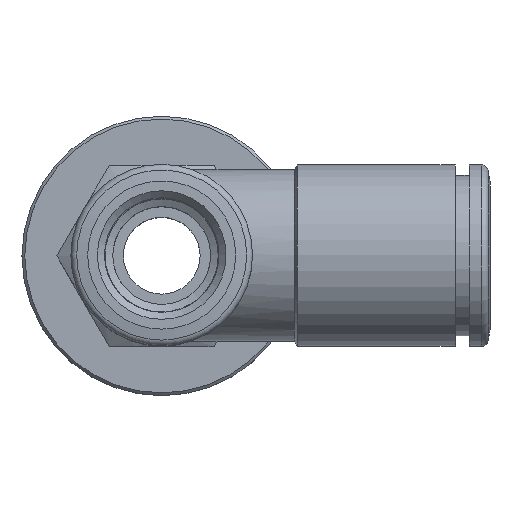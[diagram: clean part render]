
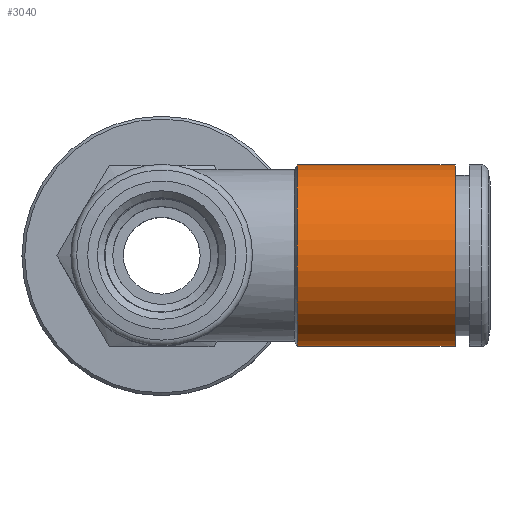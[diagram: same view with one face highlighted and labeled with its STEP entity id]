
A CAD part, top view. The second image highlights one B-rep face of the part: STEP entity #3040.
In plain terms, the highlighted cylindrical face has radius 6.5 mm (diameter 13 mm), a full revolution.
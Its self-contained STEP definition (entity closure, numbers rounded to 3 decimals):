
#3040=ADVANCED_FACE('', (#3050,#3060), #3070, .T.);
#10430=AXIS2_PLACEMENT_3D('Ax2Pl3d', #10440, #10450, #10460);
#10470=AXIS2_PLACEMENT_3D('Ax2Pl3d', #10480, #10490, #10500);
#10510=AXIS2_PLACEMENT_3D('Ax2Pl3d', #10520, #10530, #10540);
#10440=CARTESIAN_POINT('HicPkt', (30.152,12.801,
29.44));
#10480=CARTESIAN_POINT('HicPkt', (30.152,12.801,
29.44));
#15440=CARTESIAN_POINT('', (30.152,6.301,29.44));
#10520=CARTESIAN_POINT('HicPkt', (41.45,12.801,
29.44));
#15450=CARTESIAN_POINT('', (41.45,12.801,35.94));
#16350=CIRCLE('Circle', #10470, 6.5);
#16360=CIRCLE('Circle', #10510, 6.5);
#3070=CYLINDRICAL_SURFACE('Zyl', #10430, 6.5);
#10450=DIRECTION('Axis', (1.,0.,0.));
#10460=DIRECTION('RefDirection', (0.,0.,-1.));
#10490=DIRECTION('Axis', (1.,0.,0.));
#10500=DIRECTION('RefDirection', (0.,0.,-1.));
#10530=DIRECTION('Axis', (1.,0.,0.));
#10540=DIRECTION('RefDirection', (0.,0.,-1.));
#22270=EDGE_CURVE('', #22280, #22280, #16350, .T.);
#22290=EDGE_CURVE('', #22300, #22300, #16360, .T.);
#25900=EDGE_LOOP('Edge_loop', (#25910));
#25920=EDGE_LOOP('Edge_loop', (#25930));
#3060=FACE_BOUND('', #25920, .T.);
#3050=FACE_OUTER_BOUND('Face_outer_bound', #25900, .T.);
#25910=ORIENTED_EDGE('', *, *, #22270, .T.);
#25930=ORIENTED_EDGE('', *, *, #22290, .F.);
#22280=VERTEX_POINT('', #15440);
#22300=VERTEX_POINT('', #15450);
